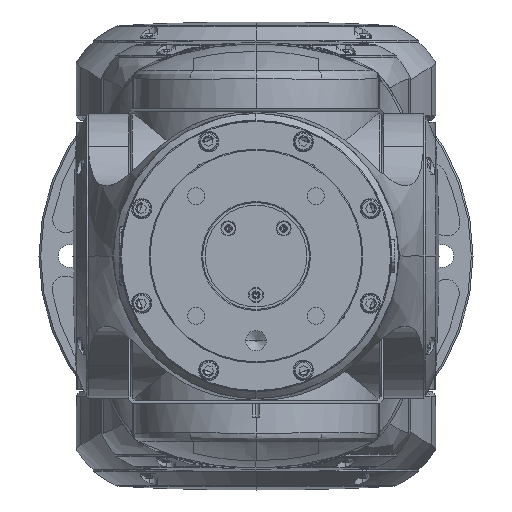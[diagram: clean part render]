
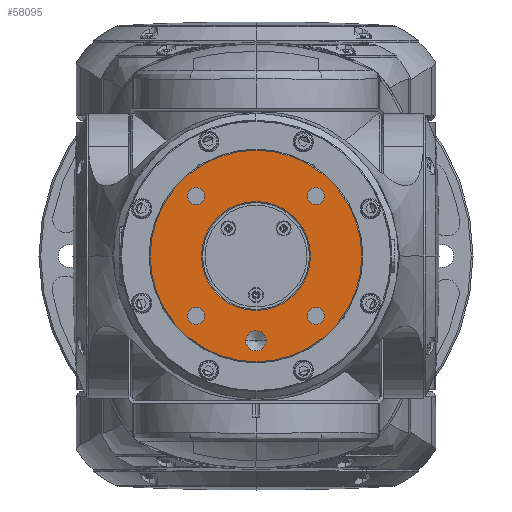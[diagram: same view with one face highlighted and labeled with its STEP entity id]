
A CAD part, front view. The second image highlights one B-rep face of the part: STEP entity #58095.
In plain terms, the highlighted planar face has unit normal (0, -1, 0) as drawn and (1, 0, 0) by its records, which use the part's own axes.
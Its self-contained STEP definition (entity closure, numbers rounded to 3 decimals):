
#338 = CARTESIAN_POINT ( 'NONE',  ( 884., 0., 0. ) ) ;
#1412 = DIRECTION ( 'NONE',  ( 1., 0., 0. ) ) ;
#1726 = CIRCLE ( 'NONE', #42040, 16.05 ) ;
#2235 = CARTESIAN_POINT ( 'NONE',  ( 884., -31.2, 0. ) ) ;
#3295 = DIRECTION ( 'NONE',  ( 1., 0., 0. ) ) ;
#3576 = EDGE_LOOP ( 'NONE', ( #41625, #28038 ) ) ;
#3803 = FACE_BOUND ( 'NONE', #64273, .T. ) ;
#5763 = CIRCLE ( 'NONE', #28450, 2.5 ) ;
#5915 = AXIS2_PLACEMENT_3D ( 'NONE', #11198, #86071, #45198 ) ;
#5947 = FACE_BOUND ( 'NONE', #8632, .T. ) ;
#6362 = VERTEX_POINT ( 'NONE', #68975 ) ;
#8055 = FACE_BOUND ( 'NONE', #54851, .T. ) ;
#8632 = EDGE_LOOP ( 'NONE', ( #78097, #11723 ) ) ;
#8725 = VERTEX_POINT ( 'NONE', #65412 ) ;
#8771 = CARTESIAN_POINT ( 'NONE',  ( 884., 3., -25. ) ) ;
#9561 = AXIS2_PLACEMENT_3D ( 'NONE', #42891, #1412, #36311 ) ;
#10335 = VERTEX_POINT ( 'NONE', #11328 ) ;
#11198 = CARTESIAN_POINT ( 'NONE',  ( 884., 17.678, 17.678 ) ) ;
#11328 = CARTESIAN_POINT ( 'NONE',  ( 884., 16.05, 0. ) ) ;
#11466 = AXIS2_PLACEMENT_3D ( 'NONE', #51646, #18508, #73369 ) ;
#11723 = ORIENTED_EDGE ( 'NONE', *, *, #75211, .F. ) ;
#13217 = CARTESIAN_POINT ( 'NONE',  ( 884., -17.678, 17.678 ) ) ;
#14204 = AXIS2_PLACEMENT_3D ( 'NONE', #53181, #46875, #46573 ) ;
#15397 = ORIENTED_EDGE ( 'NONE', *, *, #84732, .F. ) ;
#17505 = VERTEX_POINT ( 'NONE', #2235 ) ;
#17524 = ORIENTED_EDGE ( 'NONE', *, *, #24648, .F. ) ;
#17734 = EDGE_CURVE ( 'NONE', #6362, #57211, #76434, .T. ) ;
#18472 = CARTESIAN_POINT ( 'NONE',  ( 884., 15.178, 17.678 ) ) ;
#18508 = DIRECTION ( 'NONE',  ( 1., 0., 0. ) ) ;
#18634 = VERTEX_POINT ( 'NONE', #85347 ) ;
#18791 = CARTESIAN_POINT ( 'NONE',  ( 884., 0., 0. ) ) ;
#18891 = CARTESIAN_POINT ( 'NONE',  ( 884., 17.678, -17.678 ) ) ;
#19722 = EDGE_CURVE ( 'NONE', #17505, #68738, #57251, .T. ) ;
#20630 = EDGE_CURVE ( 'NONE', #8725, #85230, #45426, .T. ) ;
#20816 = ORIENTED_EDGE ( 'NONE', *, *, #20630, .F. ) ;
#22726 = DIRECTION ( 'NONE',  ( 0., 1., 0. ) ) ;
#23306 = CARTESIAN_POINT ( 'NONE',  ( 884., 0., 0. ) ) ;
#24114 = FACE_BOUND ( 'NONE', #26421, .T. ) ;
#24648 = EDGE_CURVE ( 'NONE', #86518, #38275, #37552, .T. ) ;
#25316 = CIRCLE ( 'NONE', #49503, 31.2 ) ;
#26126 = CIRCLE ( 'NONE', #81735, 3. ) ;
#26421 = EDGE_LOOP ( 'NONE', ( #73810, #77991 ) ) ;
#27095 = CIRCLE ( 'NONE', #14204, 2.5 ) ;
#27337 = CARTESIAN_POINT ( 'NONE',  ( 884., 17.678, -17.678 ) ) ;
#28038 = ORIENTED_EDGE ( 'NONE', *, *, #85581, .F. ) ;
#28394 = EDGE_LOOP ( 'NONE', ( #50805, #63847 ) ) ;
#28450 = AXIS2_PLACEMENT_3D ( 'NONE', #27337, #41050, #34226 ) ;
#28746 = CARTESIAN_POINT ( 'NONE',  ( 884., 0., -25. ) ) ;
#29407 = FACE_OUTER_BOUND ( 'NONE', #28394, .T. ) ;
#30235 = DIRECTION ( 'NONE',  ( -1., 0., 0. ) ) ;
#30317 = VERTEX_POINT ( 'NONE', #8771 ) ;
#30556 = DIRECTION ( 'NONE',  ( 1., 0., 0. ) ) ;
#32671 = CIRCLE ( 'NONE', #9561, 2.5 ) ;
#33514 = CIRCLE ( 'NONE', #56554, 16.05 ) ;
#34089 = DIRECTION ( 'NONE',  ( 1., 0., 0. ) ) ;
#34226 = DIRECTION ( 'NONE',  ( 0., 1., 0. ) ) ;
#36311 = DIRECTION ( 'NONE',  ( 0., 1., 0. ) ) ;
#36693 = EDGE_CURVE ( 'NONE', #38275, #86518, #32671, .T. ) ;
#37552 = CIRCLE ( 'NONE', #11466, 2.5 ) ;
#37702 = DIRECTION ( 'NONE',  ( 0., 1., 0. ) ) ;
#38275 = VERTEX_POINT ( 'NONE', #40766 ) ;
#38765 = EDGE_CURVE ( 'NONE', #30317, #87394, #85845, .T. ) ;
#39446 = DIRECTION ( 'NONE',  ( 0., 1., 0. ) ) ;
#40207 = EDGE_CURVE ( 'NONE', #82126, #85802, #71510, .T. ) ;
#40226 = DIRECTION ( 'NONE',  ( -1., 0., 0. ) ) ;
#40766 = CARTESIAN_POINT ( 'NONE',  ( 884., -20.178, -17.678 ) ) ;
#40914 = DIRECTION ( 'NONE',  ( 0., 1., 0. ) ) ;
#41050 = DIRECTION ( 'NONE',  ( 1., 0., 0. ) ) ;
#41625 = ORIENTED_EDGE ( 'NONE', *, *, #17734, .F. ) ;
#41991 = CIRCLE ( 'NONE', #70247, 2.5 ) ;
#42040 = AXIS2_PLACEMENT_3D ( 'NONE', #18791, #40226, #81379 ) ;
#42235 = FACE_BOUND ( 'NONE', #3576, .T. ) ;
#42649 = CARTESIAN_POINT ( 'NONE',  ( 884., -15.178, 17.678 ) ) ;
#42891 = CARTESIAN_POINT ( 'NONE',  ( 884., -17.678, -17.678 ) ) ;
#43022 = EDGE_LOOP ( 'NONE', ( #17524, #61774 ) ) ;
#44389 = FACE_BOUND ( 'NONE', #43022, .T. ) ;
#44501 = CARTESIAN_POINT ( 'NONE',  ( 884., -15.178, -17.678 ) ) ;
#45198 = DIRECTION ( 'NONE',  ( 0., 1., 0. ) ) ;
#45426 = CIRCLE ( 'NONE', #80904, 2.5 ) ;
#46573 = DIRECTION ( 'NONE',  ( 0., 1., 0. ) ) ;
#46875 = DIRECTION ( 'NONE',  ( 1., 0., 0. ) ) ;
#46938 = DIRECTION ( 'NONE',  ( 1., 0., 0. ) ) ;
#48243 = ORIENTED_EDGE ( 'NONE', *, *, #49485, .T. ) ;
#49250 = CARTESIAN_POINT ( 'NONE',  ( 884., -3., -25. ) ) ;
#49485 = EDGE_CURVE ( 'NONE', #10335, #18634, #33514, .T. ) ;
#49503 = AXIS2_PLACEMENT_3D ( 'NONE', #58644, #30556, #37702 ) ;
#49620 = DIRECTION ( 'NONE',  ( 0., 1., 0. ) ) ;
#49704 = AXIS2_PLACEMENT_3D ( 'NONE', #28746, #84186, #49620 ) ;
#50805 = ORIENTED_EDGE ( 'NONE', *, *, #19722, .T. ) ;
#51646 = CARTESIAN_POINT ( 'NONE',  ( 884., -17.678, -17.678 ) ) ;
#53181 = CARTESIAN_POINT ( 'NONE',  ( 884., 17.678, 17.678 ) ) ;
#53622 = CARTESIAN_POINT ( 'NONE',  ( 884., 31.2, 0. ) ) ;
#54051 = AXIS2_PLACEMENT_3D ( 'NONE', #338, #34089, #40914 ) ;
#54455 = CARTESIAN_POINT ( 'NONE',  ( 884., 20.178, -17.678 ) ) ;
#54851 = EDGE_LOOP ( 'NONE', ( #15397, #20816 ) ) ;
#56554 = AXIS2_PLACEMENT_3D ( 'NONE', #70493, #30235, #63100 ) ;
#56569 = DIRECTION ( 'NONE',  ( 1., 0., 0. ) ) ;
#57211 = VERTEX_POINT ( 'NONE', #18472 ) ;
#57251 = CIRCLE ( 'NONE', #54051, 31.2 ) ;
#57617 = CARTESIAN_POINT ( 'NONE',  ( 884., -17.678, 17.678 ) ) ;
#58095 = ADVANCED_FACE ( 'NONE', ( #29407, #3803, #44389, #8055, #42235, #24114, #5947 ), #77578, .T. ) ;
#58644 = CARTESIAN_POINT ( 'NONE',  ( 884., 0., 0. ) ) ;
#61774 = ORIENTED_EDGE ( 'NONE', *, *, #36693, .F. ) ;
#63100 = DIRECTION ( 'NONE',  ( 0., 1., 0. ) ) ;
#63847 = ORIENTED_EDGE ( 'NONE', *, *, #81859, .T. ) ;
#64273 = EDGE_LOOP ( 'NONE', ( #48243, #76316 ) ) ;
#65412 = CARTESIAN_POINT ( 'NONE',  ( 884., 15.178, -17.678 ) ) ;
#66604 = DIRECTION ( 'NONE',  ( 1., 0., 0. ) ) ;
#68738 = VERTEX_POINT ( 'NONE', #53622 ) ;
#68975 = CARTESIAN_POINT ( 'NONE',  ( 884., 20.178, 17.678 ) ) ;
#69644 = CARTESIAN_POINT ( 'NONE',  ( 884., 0., -25. ) ) ;
#70230 = DIRECTION ( 'NONE',  ( 0., 1., 0. ) ) ;
#70247 = AXIS2_PLACEMENT_3D ( 'NONE', #57617, #78126, #85009 ) ;
#70493 = CARTESIAN_POINT ( 'NONE',  ( 884., 0., 0. ) ) ;
#71133 = AXIS2_PLACEMENT_3D ( 'NONE', #23306, #3295, #22726 ) ;
#71510 = CIRCLE ( 'NONE', #79484, 2.5 ) ;
#73369 = DIRECTION ( 'NONE',  ( 0., 1., 0. ) ) ;
#73795 = DIRECTION ( 'NONE',  ( 0., 1., 0. ) ) ;
#73810 = ORIENTED_EDGE ( 'NONE', *, *, #87665, .F. ) ;
#74057 = CARTESIAN_POINT ( 'NONE',  ( 884., -20.178, 17.678 ) ) ;
#75211 = EDGE_CURVE ( 'NONE', #87394, #30317, #26126, .T. ) ;
#76316 = ORIENTED_EDGE ( 'NONE', *, *, #82503, .T. ) ;
#76434 = CIRCLE ( 'NONE', #5915, 2.5 ) ;
#77578 = PLANE ( 'NONE',  #71133 ) ;
#77991 = ORIENTED_EDGE ( 'NONE', *, *, #40207, .F. ) ;
#78097 = ORIENTED_EDGE ( 'NONE', *, *, #38765, .F. ) ;
#78126 = DIRECTION ( 'NONE',  ( 1., 0., 0. ) ) ;
#79484 = AXIS2_PLACEMENT_3D ( 'NONE', #13217, #46938, #73795 ) ;
#80904 = AXIS2_PLACEMENT_3D ( 'NONE', #18891, #66604, #39446 ) ;
#81379 = DIRECTION ( 'NONE',  ( 0., 1., 0. ) ) ;
#81735 = AXIS2_PLACEMENT_3D ( 'NONE', #69644, #56569, #70230 ) ;
#81859 = EDGE_CURVE ( 'NONE', #68738, #17505, #25316, .T. ) ;
#82126 = VERTEX_POINT ( 'NONE', #74057 ) ;
#82503 = EDGE_CURVE ( 'NONE', #18634, #10335, #1726, .T. ) ;
#84186 = DIRECTION ( 'NONE',  ( 1., 0., 0. ) ) ;
#84732 = EDGE_CURVE ( 'NONE', #85230, #8725, #5763, .T. ) ;
#85009 = DIRECTION ( 'NONE',  ( 0., 1., 0. ) ) ;
#85230 = VERTEX_POINT ( 'NONE', #54455 ) ;
#85347 = CARTESIAN_POINT ( 'NONE',  ( 884., -16.05, 0. ) ) ;
#85581 = EDGE_CURVE ( 'NONE', #57211, #6362, #27095, .T. ) ;
#85802 = VERTEX_POINT ( 'NONE', #42649 ) ;
#85845 = CIRCLE ( 'NONE', #49704, 3. ) ;
#86071 = DIRECTION ( 'NONE',  ( 1., 0., 0. ) ) ;
#86518 = VERTEX_POINT ( 'NONE', #44501 ) ;
#87394 = VERTEX_POINT ( 'NONE', #49250 ) ;
#87665 = EDGE_CURVE ( 'NONE', #85802, #82126, #41991, .T. ) ;
